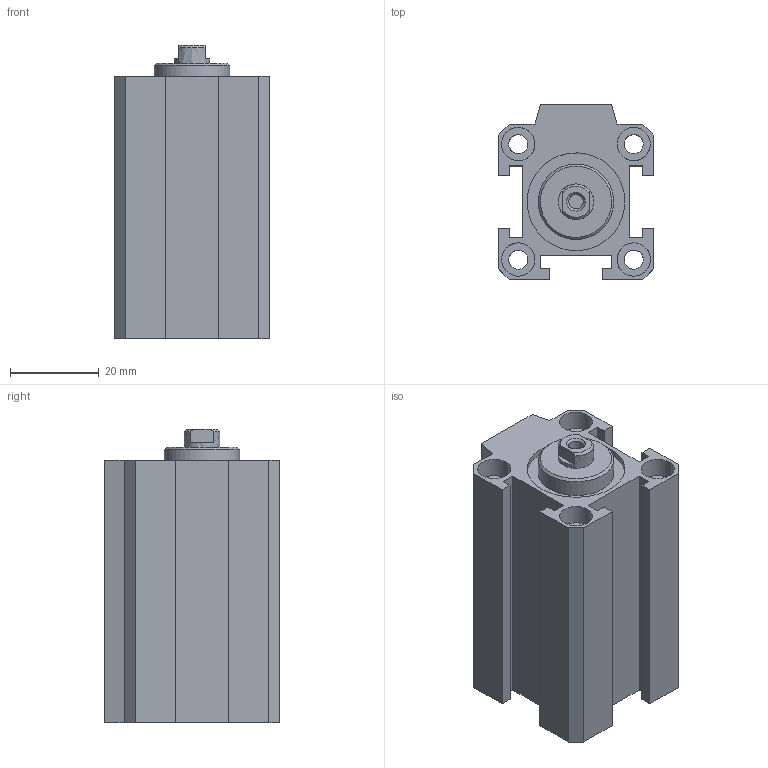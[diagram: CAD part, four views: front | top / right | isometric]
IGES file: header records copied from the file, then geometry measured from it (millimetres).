
Global section: file name: 1511_20_0025; native system: Autodesk Inventor 2014; preprocessor: unknown; author: A. Manieri; date: 20160824.110320; units: millimetre
Bounding box: 35 x 39.5 x 66 mm (x, y, z)
Volume: 49626.5 mm3; surface area: 24145.9 mm2
Topology: 2 solids, 2 shells, 91 faces, 233 edges, 164 vertices
Faces by surface type: bspline 91
